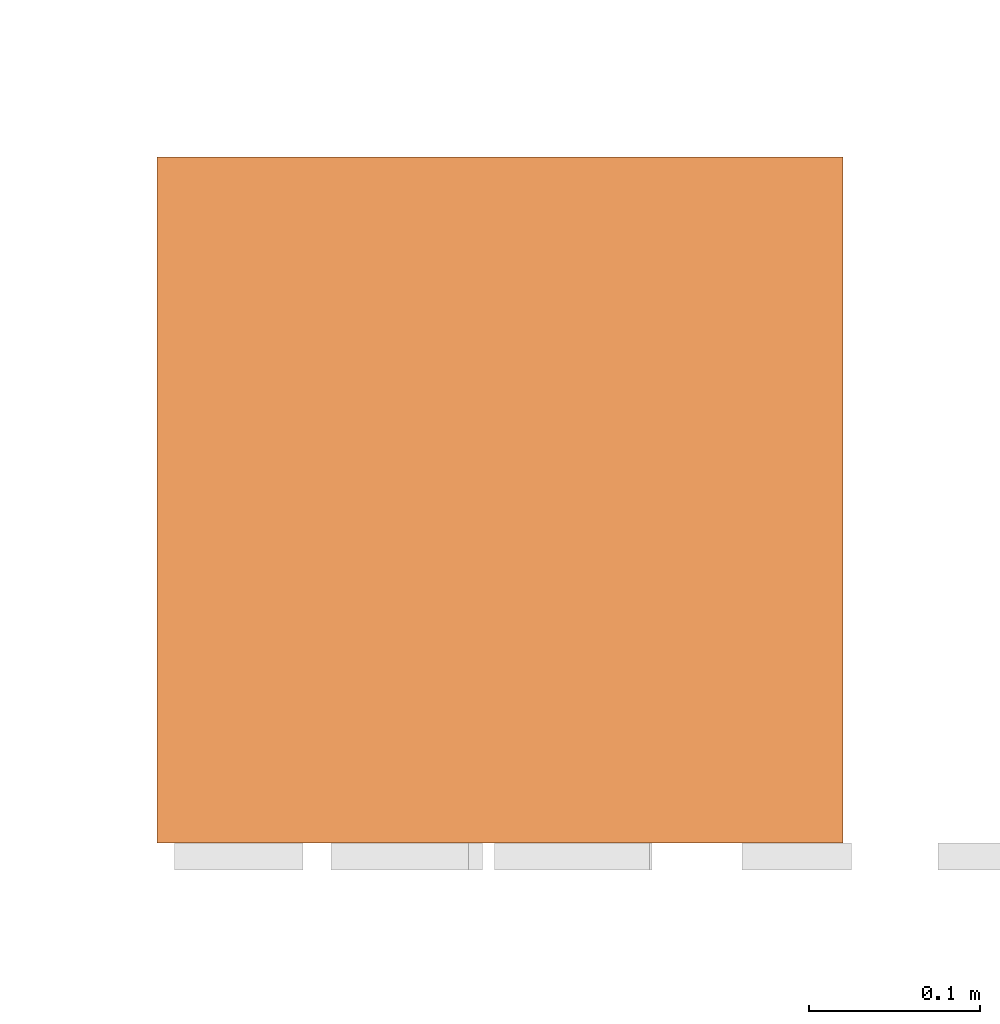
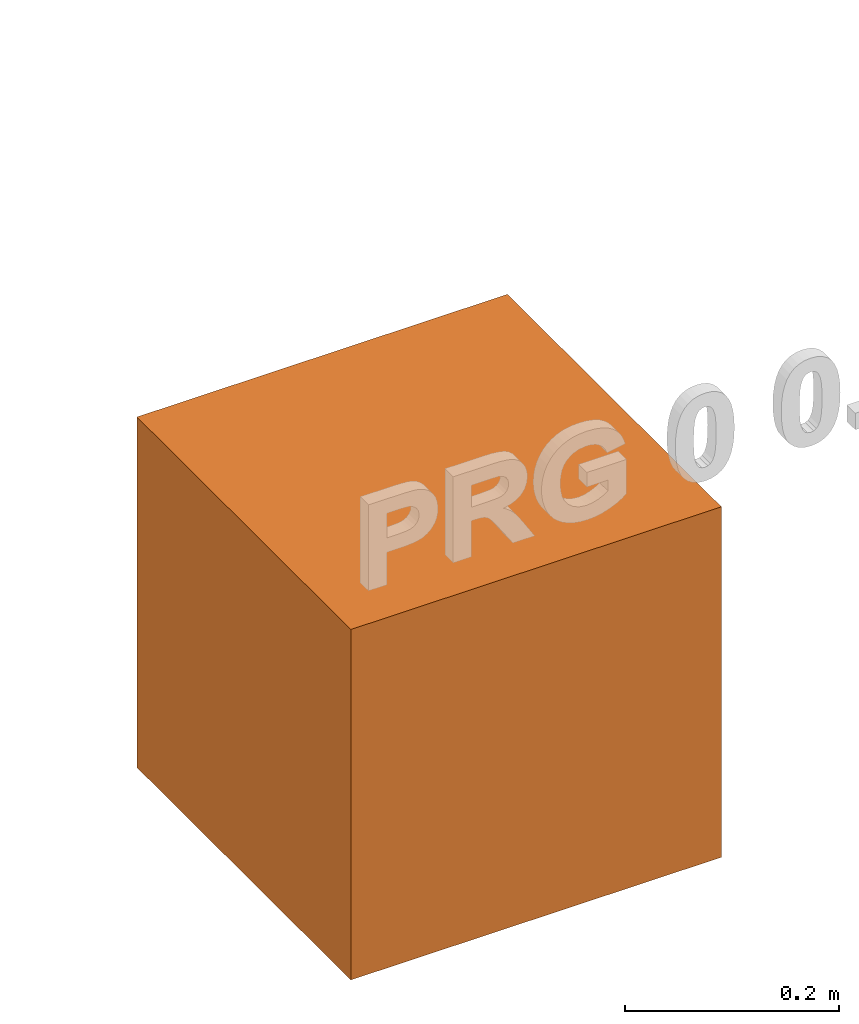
# One storey, part 260 of 260: 1 proxy.
"""IFC2X3 building model written with IfcOpenShell, lengths in millimetres."""

from ifc_helpers import new_model, entity, si_unit, converted_unit, derived_unit, money_unit, direction, frame, origin_with_axes, place, context, subcontext, project, spatial, faceted_brep, type_object, element, save


model = new_model("IFC2X3")

# Units and contexts
model_context = context("Model", 3, precision=0.01, world=origin_with_axes(), true_north=direction((0.0, 1.0)))
body_context = subcontext(model_context, "Body", "Model", "MODEL_VIEW")
ifc_project = project(units=[si_unit("LENGTHUNIT", "METRE", prefix="MILLI"), si_unit("AREAUNIT", "SQUARE_METRE"), si_unit("VOLUMEUNIT", "CUBIC_METRE"), converted_unit("PLANEANGLEUNIT", "DEGREE", entity("IfcPlaneAngleMeasure", 0.0174532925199), si_unit("PLANEANGLEUNIT", "RADIAN"), dimensions=[0, 0, 0, 0, 0, 0, 0]), money_unit("EUR"), converted_unit("TIMEUNIT", "Year", entity("IfcTimeMeasure", 31556926.0), si_unit("TIMEUNIT", "SECOND"), dimensions=[0, 0, 1, 0, 0, 0, 0]), si_unit("MASSUNIT", "GRAM", prefix="KILO"), si_unit("THERMODYNAMICTEMPERATUREUNIT", "DEGREE_CELSIUS"), si_unit("LUMINOUSINTENSITYUNIT", "LUMEN"), si_unit("ENERGYUNIT", "JOULE", prefix="MEGA"), derived_unit("THERMALCONDUCTANCEUNIT", [(si_unit("POWERUNIT", "WATT"), 1), (si_unit("LENGTHUNIT", "METRE"), -1), (si_unit("THERMODYNAMICTEMPERATUREUNIT", "KELVIN"), -1)]), derived_unit("SPECIFICHEATCAPACITYUNIT", [(si_unit("ENERGYUNIT", "JOULE"), 1), (si_unit("MASSUNIT", "GRAM", prefix="KILO"), -1), (si_unit("THERMODYNAMICTEMPERATUREUNIT", "KELVIN"), -1)]), derived_unit("MASSDENSITYUNIT", [(si_unit("MASSUNIT", "GRAM", prefix="KILO"), 1), (si_unit("VOLUMEUNIT", "CUBIC_METRE"), -1)])], contexts=[model_context])

# Site, building, storey
site_placement = place(None, origin_with_axes())
site = spatial("IfcSite", under=ifc_project, at=site_placement, Name="Kolde pst 67a", CompositionType="ELEMENT")
building_placement = place(site_placement, origin_with_axes())
building = spatial("IfcBuilding", under=site, at=building_placement, Name="Riigigümnaasium", CompositionType="ELEMENT")
storey_placement = place(building_placement, origin_with_axes())
storey = spatial("IfcBuildingStorey", under=building, at=storey_placement, Name="1. korrus", CompositionType="ELEMENT", Elevation=0.0)

# Proxy
building_element_proxy_type = type_object("IfcBuildingElementProxyType", Name="Cube 25", PredefinedType="NOTDEFINED")
proxy_placement = place(storey_placement, frame((0.0, 400.0, -400.0), z_axis=(0.0, 0.0, 1.0), x_axis=(0.0, -1.0, 0.0)))
element("IfcBuildingElementProxy", 1, at=proxy_placement, inside=storey, type_object=building_element_proxy_type, Name="Nullpunkt", context=body_context, shape_type="Brep", body=[
    faceted_brep([(400.0, 0.0, 0.0), (0.0, 0.0, 0.0), (0.0, 400.0, 0.0), (400.0, 400.0, 0.0), (400.0, 0.0, 400.0), (0.0, 0.0, 400.0), (0.0, 400.0, 400.0), (400.0, 400.0, 400.0)], [[[0, 1, 2, 3]], [[1, 0, 4, 5]], [[2, 1, 5, 6]], [[3, 2, 6, 7]], [[0, 3, 7, 4]], [[5, 4, 7, 6]]]),
])

save(model, "model.ifc")
